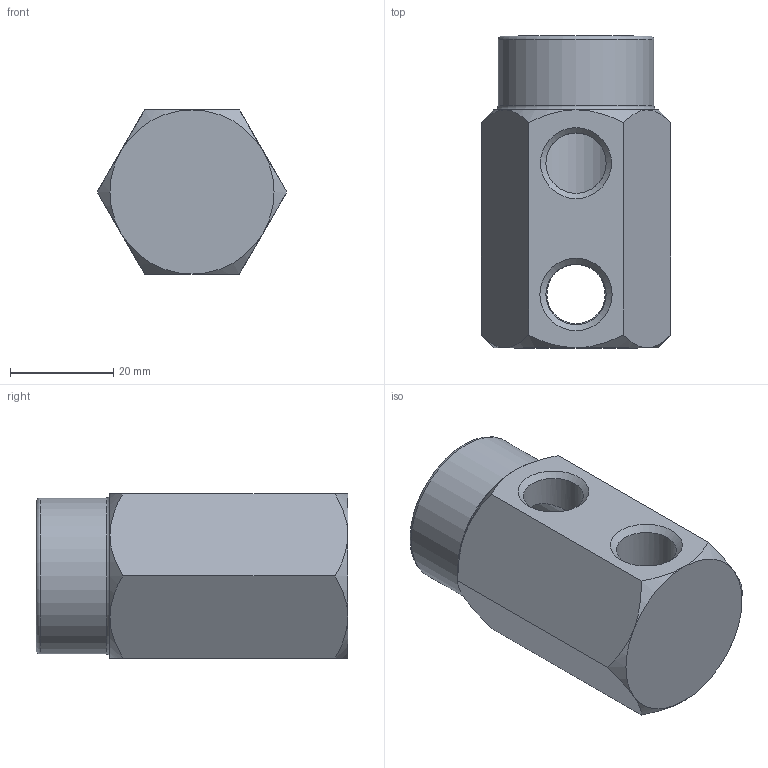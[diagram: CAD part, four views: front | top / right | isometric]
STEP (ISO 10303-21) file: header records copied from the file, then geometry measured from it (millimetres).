
FILE_DESCRIPTION(/* description */ (''),/* implementation_level */ '2;1');
FILE_NAME(/* name */ 'C:/Users/drich/Desktop/121H-4 v2.step',/* time_stamp */ '2020-01-10T20:20:29-06:00',/* author */ (''),/* organization */ (''),/* preprocessor_version */ 'ST-DEVELOPER v18',/* originating_system */ 'Autodesk Translation Framework v8.12.0.6',/* authorisation */ '');
FILE_SCHEMA (('AUTOMOTIVE_DESIGN { 1 0 10303 214 3 1 1 }'));
Length unit declared in the file: inch
Products named in the file (2): 121H-4; 121H-4_1
Assembly tree (1 placements, depth 2):
  121H-4
    121H-4_1
Bounding box: 36.66 x 60.31 x 31.75 mm (x, y, z)
Volume: 35864.5 mm3; surface area: 10981.1 mm2
Topology: 1 solids, 1 shells, 36 faces, 91 edges, 57 vertices
Faces by surface type: cone 19, plane 9, cylinder 6, torus 2
Full cylindrical faces by diameter (mm): 9.881 x1, 11.668 x3, 18.901 x1, 30.15 x1
Entity records: 1220 total; most frequent: CARTESIAN_POINT 335, ORIENTED_EDGE 182, DIRECTION 177, EDGE_CURVE 91, AXIS2_PLACEMENT_3D 80, VERTEX_POINT 57, EDGE_LOOP 42, CIRCLE 41
